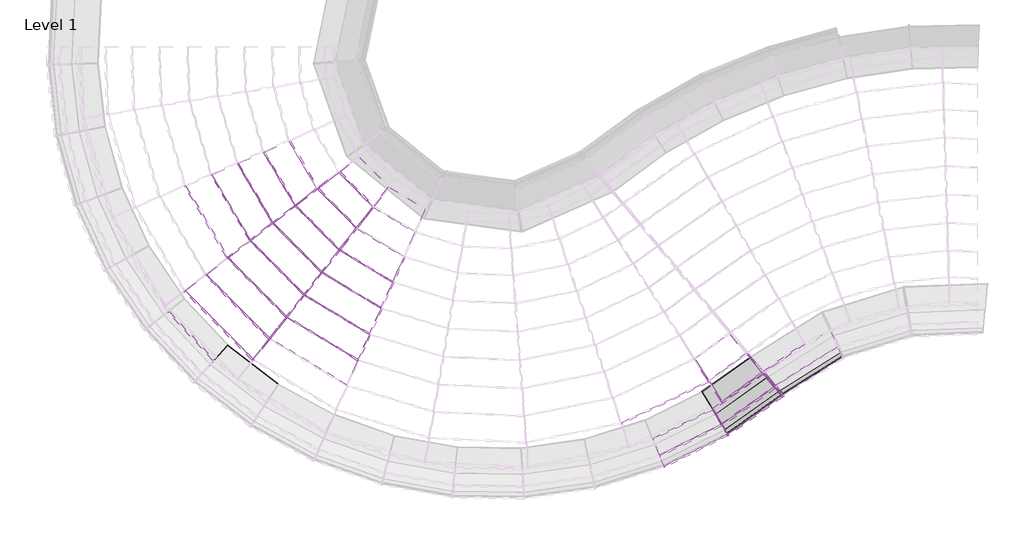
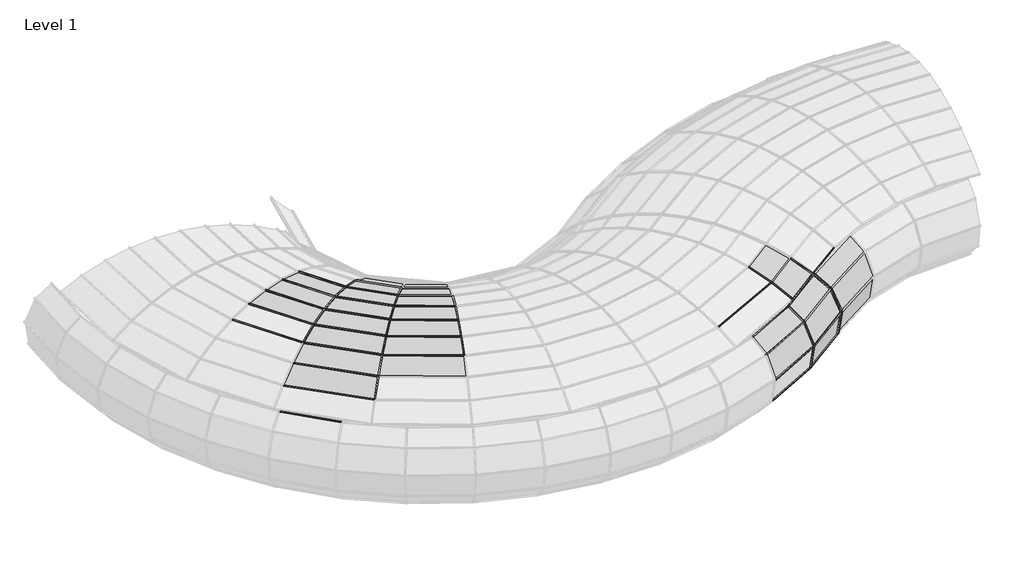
# One storey, part 4 of 23: 67 members, 30 plates.
"""IFC4 building model written with IfcOpenShell, lengths in millimetres."""

from ifc_helpers import new_model, si_unit, origin, place, context, project, spatial, transform, mapped, element, save
from components import member_1b20e6ad, member_6c4aaba8, member_c876edb5, member_782630c7, member_0ea93e7c, member_01d9c279, member_398607d0, member_12c77cbe, member_5ccaa950, member_f3e77526, member_9c203333, member_0c6c8d0c, member_86c07ba8, member_5c79e99c, member_0e8a41c0, member_5e0dc5e0, member_f532ae18, member_f7f5578b, member_ff5bcfe9, member_30a298c8, member_de981218, member_5080b2ef, member_d6b8231b, member_8c9da58c, member_391bee44, member_01ebdf2a, member_0cd36c09, member_e4cc2466, member_0cc87893, member_f8d2dede, member_1517f304, member_58eada01, member_30d53926, member_a8f221fd, member_4c50ae0e, member_afb76c1e, member_c358399a, member_0167d042, system_panel_glazed_acb349bd, system_panel_glazed_abe1d05c, system_panel_glazed_6222ca12, system_panel_glazed_39caee5c, system_panel_glazed_6419fff8, system_panel_glazed_2fe36e08, system_panel_glazed_fbc1d6e8, system_panel_glazed_3b9064ea, system_panel_glazed_5e26bc8e, system_panel_glazed_6d01105a, system_panel_glazed_f7be4813, system_panel_glazed_5b1ce257, system_panel_glazed_7bf4cd1b, system_panel_glazed_9f229a92, system_panel_glazed_a07c5774, system_panel_glazed_4fd85c75, system_panel_glazed_1256fb3b, system_panel_glazed_93969a75, system_panel_glazed_a392d462, system_panel_glazed_c7afbf4a

model = new_model("IFC4")

# Units and contexts
model_context = context("Model", 3, world=origin())
ifc_project = project(units=[si_unit("LENGTHUNIT", "METRE", prefix="MILLI")], contexts=[model_context])

# Site, building, storey
site = spatial("IfcSite", under=ifc_project)
building = spatial("IfcBuilding", under=site)
storey = spatial("IfcBuildingStorey", under=building, Name="Level 1", Elevation=0.0)

# Members
placement = place(None, origin())
member_shape = member_1b20e6ad(model_context)
element("IfcMember", 1, ObjectType="Rectangular Mullion : 1\" Square", at=placement, inside=storey, context=model_context, shape_type="MappedRepresentation", body=[
    mapped(member_shape, transform((-4215.1839746, -8172.5910384, 2085.6089632), x_axis=(0.5019403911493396, -0.7184828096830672, -0.48149589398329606), y_axis=(0.27575183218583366, -0.3947141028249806, 0.8764483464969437), z_axis=(-0.8197662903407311, -0.5726982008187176, 0.0))),
])
member_2_shape = member_6c4aaba8(model_context)
element("IfcMember", 2, ObjectType="Rectangular Mullion : 1\" Square", at=placement, inside=storey, context=model_context, shape_type="MappedRepresentation", body=[
    mapped(member_2_shape, transform((-15084.8340664, -7905.9935602, 2378.3537392), x_axis=(0.6432189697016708, 0.6374360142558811, 0.42419887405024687), y_axis=(-0.30130530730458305, -0.29859637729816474, 0.9055690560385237), z_axis=(0.7039065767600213, -0.7102925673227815, 0.0))),
])
element("IfcMember", 3, ObjectType="Rectangular Mullion : 1\" Square", at=placement, inside=storey, context=model_context, shape_type="MappedRepresentation", body=[
    mapped(member_2_shape, transform((-5404.7053993, -8378.6334389, 2378.3537392), x_axis=(-0.3921062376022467, 0.8162769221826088, 0.4241988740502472), y_axis=(0.18367569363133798, -0.3823714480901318, 0.9055690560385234), z_axis=(0.9013966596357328, 0.4329942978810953, 0.0))),
])
member_3_shape = member_c876edb5(model_context)
element("IfcMember", 4, ObjectType="Rectangular Mullion : 1\" Square", at=placement, inside=storey, context=model_context, shape_type="MappedRepresentation", body=[
    mapped(member_3_shape, transform((-13708.1208201, -4258.3172566, 2676.0506073), x_axis=(0.8291768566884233, 0.4895534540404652, -0.2698205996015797), y_axis=(0.23234658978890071, 0.13717951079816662, 0.962910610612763), z_axis=(0.5084100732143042, -0.8611150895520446, 0.0))),
])
element("IfcMember", 5, ObjectType="Rectangular Mullion : 1\" Square", at=placement, inside=storey, context=model_context, shape_type="MappedRepresentation", body=[
    mapped(member_3_shape, transform((-12878.9206564, -5099.4608771, 2676.0506073), x_axis=(0.6839482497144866, 0.6777991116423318, -0.2698205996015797), y_axis=(0.19165156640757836, 0.18992849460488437, 0.962910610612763), z_axis=(0.7039065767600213, -0.7102925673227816, 0.0))),
])
member_4_shape = member_782630c7(model_context)
element("IfcMember", 6, ObjectType="Rectangular Mullion : 1\" Square", at=placement, inside=storey, context=model_context, shape_type="MappedRepresentation", body=[
    mapped(member_4_shape, transform((-12523.0938407, -4646.7506378, 2475.91846), x_axis=(0.6564501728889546, 0.6505482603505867, -0.38191639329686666), y_axis=(0.2712723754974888, 0.26883346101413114, 0.9241968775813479), z_axis=(0.7039065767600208, -0.7102925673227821, 0.0))),
])
member_5_shape = member_0ea93e7c(model_context)
element("IfcMember", 7, ObjectType="Rectangular Mullion : 1\" Square", at=placement, inside=storey, context=model_context, shape_type="MappedRepresentation", body=[
    mapped(member_5_shape, transform((-15620.3561589, -5733.5771802, 2763.3769688), x_axis=(0.8438153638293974, 0.4981961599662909, 0.19943976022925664), y_axis=(-0.17174058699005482, -0.10139718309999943, 0.97991008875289), z_axis=(0.508410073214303, -0.8611150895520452, 0.0))),
])
element("IfcMember", 8, ObjectType="Rectangular Mullion : 1\" Square", at=placement, inside=storey, context=model_context, shape_type="MappedRepresentation", body=[
    mapped(member_5_shape, transform((-14371.3899343, -6998.2950689, 2763.3769688), x_axis=(0.6960228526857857, 0.6897651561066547, 0.1994397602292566), y_axis=(-0.14166057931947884, -0.14038695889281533, 0.97991008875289), z_axis=(0.7039065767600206, -0.7102925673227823, 0.0))),
])
element("IfcMember", 9, ObjectType="Rectangular Mullion : 1\" Square", at=placement, inside=storey, context=model_context, shape_type="MappedRepresentation", body=[
    mapped(member_5_shape, transform((-12850.6090502, -7918.4328144, 2763.3769688), x_axis=(0.5057963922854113, 0.8392817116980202, 0.1994397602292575), y_axis=(-0.10294404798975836, -0.17081785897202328, 0.9799100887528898), z_axis=(0.8564884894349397, -0.5161661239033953, 0.0))),
])
member_6_shape = member_01d9c279(model_context)
element("IfcMember", 10, ObjectType="Rectangular Mullion : 1\" Square", at=placement, inside=storey, context=model_context, shape_type="MappedRepresentation", body=[
    mapped(member_6_shape, transform((-15142.6167304, -5365.0086162, 2850.17796), x_axis=(0.8582013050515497, 0.5066897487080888, 0.08219500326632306), y_axis=(-0.07077935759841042, -0.04178876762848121, 0.9966162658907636), z_axis=(0.5084100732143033, -0.8611150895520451, 0.0))),
])
element("IfcMember", 11, ObjectType="Rectangular Mullion : 1\" Square", at=placement, inside=storey, context=model_context, shape_type="MappedRepresentation", body=[
    mapped(member_6_shape, transform((-13998.5219063, -6523.9036887, 2850.17796), x_axis=(0.7078891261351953, 0.7015247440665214, 0.08219500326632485), y_axis=(-0.058382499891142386, -0.057857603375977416, 0.9966162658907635), z_axis=(0.7039065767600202, -0.7102925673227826, 0.0))),
])
element("IfcMember", 12, ObjectType="Rectangular Mullion : 1\" Square", at=placement, inside=storey, context=model_context, shape_type="MappedRepresentation", body=[
    mapped(member_6_shape, transform((-12605.3448127, -7367.1405129, 2850.17796), x_axis=(0.514419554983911, 0.8535903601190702, 0.08219500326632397), y_axis=(-0.04242627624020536, -0.07039907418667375, 0.9966162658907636), z_axis=(0.8564884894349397, -0.5161661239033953, 0.0))),
])
member_7_shape = member_398607d0(model_context)
element("IfcMember", 13, ObjectType="Rectangular Mullion : 1\" Square", at=placement, inside=storey, context=model_context, shape_type="MappedRepresentation", body=[
    mapped(member_7_shape, transform((-14660.0929393, -4992.7489906, 2864.5209769), x_axis=(0.8605516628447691, 0.5080774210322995, -0.03616863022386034), y_axis=(0.03114535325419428, 0.018388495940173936, 0.9993457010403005), z_axis=(0.5084100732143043, -0.8611150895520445, 0.0))),
])
element("IfcMember", 14, ObjectType="Rectangular Mullion : 1\" Square", at=placement, inside=storey, context=model_context, shape_type="MappedRepresentation", body=[
    mapped(member_7_shape, transform((-13621.9197593, -6044.7614752, 2864.5209769), x_axis=(0.7098278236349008, 0.7034460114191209, -0.03616863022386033), y_axis=(0.025690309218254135, 0.025459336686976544, 0.9993457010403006), z_axis=(0.7039065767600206, -0.7102925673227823, 0.0))),
])
element("IfcMember", 15, ObjectType="Rectangular Mullion : 1\" Square", at=placement, inside=storey, context=model_context, shape_type="MappedRepresentation", body=[
    mapped(member_7_shape, transform((-12357.6243554, -6810.3272471, 2864.5209769), x_axis=(0.5158283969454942, 0.8559280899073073, -0.03616863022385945), y_axis=(0.01866902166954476, 0.03097801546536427, 0.9993457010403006), z_axis=(0.8564884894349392, -0.5161661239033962, 0.0))),
])
member_8_shape = member_12c77cbe(model_context)
element("IfcMember", 16, ObjectType="Rectangular Mullion : 1\" Square", at=placement, inside=storey, context=model_context, shape_type="MappedRepresentation", body=[
    mapped(member_8_shape, transform((-14735.2193049, -7461.186774, 2605.3528615), x_axis=(0.674376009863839, 0.6683129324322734, 0.31396627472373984), y_axis=(-0.2230079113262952, -0.22100292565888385, 0.9494341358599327), z_axis=(0.7039065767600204, -0.7102925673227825, 0.0))),
])
member_9_shape = member_5ccaa950(model_context)
element("IfcMember", 17, ObjectType="Rectangular Mullion : 1\" Square", at=placement, inside=storey, context=model_context, shape_type="MappedRepresentation", body=[
    mapped(member_9_shape, transform((-14179.6493216, -4622.0941866, 2806.2019711), x_axis=(0.8508370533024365, 0.5023418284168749, -0.15404218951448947), y_axis=(0.1326480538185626, 0.07831660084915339, 0.9880642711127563), z_axis=(0.5084100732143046, -0.8611150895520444, 0.0))),
])
element("IfcMember", 18, ObjectType="Rectangular Mullion : 1\" Square", at=placement, inside=storey, context=model_context, shape_type="MappedRepresentation", body=[
    mapped(member_9_shape, transform((-13246.9411546, -5567.6848571, 2806.2019711), x_axis=(0.7018147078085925, 0.6955049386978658, -0.15404218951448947), y_axis=(0.1094150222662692, 0.10843131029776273, 0.9880642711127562), z_axis=(0.7039065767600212, -0.7102925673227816, 0.0))),
])
element("IfcMember", 19, ObjectType="Rectangular Mullion : 1\" Square", at=placement, inside=storey, context=model_context, shape_type="MappedRepresentation", body=[
    mapped(member_9_shape, transform((-12110.9718279, -6255.9144188, 2806.2019711), x_axis=(0.5100053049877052, 0.846265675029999, -0.15404218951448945), y_axis=(0.07951135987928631, 0.13193536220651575, 0.9880642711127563), z_axis=(0.8564884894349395, -0.5161661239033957, 0.0))),
])
member_10_shape = member_f3e77526(model_context)
element("IfcMember", 20, ObjectType="Rectangular Mullion : 1\" Square", at=placement, inside=storey, context=model_context, shape_type="MappedRepresentation", body=[
    mapped(member_10_shape, transform((-5093.7531788, -8815.3437877, 2085.6089632), x_axis=(0.5180587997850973, -0.7073528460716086, -0.48090230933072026), y_axis=(0.28415032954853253, -0.3879763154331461, 0.8767741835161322), z_axis=(-0.8067674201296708, -0.5908691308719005, 0.0))),
])
member_11_shape = member_9c203333(model_context)
element("IfcMember", 21, ObjectType="Rectangular Mullion : 1\" Square", at=placement, inside=storey, context=model_context, shape_type="MappedRepresentation", body=[
    mapped(member_11_shape, transform((-15597.0346036, -7608.5313392, 0.0), x_axis=(0.5872043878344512, 0.7590506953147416, -0.28112817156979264), y_axis=(-0.17201710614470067, -0.2223581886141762, -0.959670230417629), z_axis=(-0.790949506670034, 0.6118814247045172, 0.0))),
])
member_12_shape = member_0c6c8d0c(model_context)
element("IfcMember", 22, ObjectType="Rectangular Mullion : 1\" Square", at=placement, inside=storey, context=model_context, shape_type="MappedRepresentation", body=[
    mapped(member_12_shape, transform((-5531.5385686, -8580.1625048, 0.0), x_axis=(-0.5559696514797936, 0.7822560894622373, -0.2810216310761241), y_axis=(0.16280010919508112, -0.22906174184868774, -0.9597014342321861), z_axis=(-0.8151035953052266, -0.5793152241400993, 0.0))),
])
member_13_shape = member_86c07ba8(model_context)
element("IfcMember", 23, ObjectType="Rectangular Mullion : 1\" Square", at=placement, inside=storey, context=model_context, shape_type="MappedRepresentation", body=[
    mapped(member_13_shape, transform((-5250.8506518, -9094.1593827, 170.8694653), x_axis=(0.3769682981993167, -0.7551815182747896, 0.5362795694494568), y_axis=(0.2395150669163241, -0.47982112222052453, -0.8440404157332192), z_axis=(0.8947219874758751, 0.4466235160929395, 0.0))),
])
member_14_shape = member_5c79e99c(model_context)
element("IfcMember", 24, ObjectType="Rectangular Mullion : 1\" Square", at=placement, inside=storey, context=model_context, shape_type="MappedRepresentation", body=[
    mapped(member_14_shape, transform((-4158.497515, -8320.1995705, 170.8694653), x_axis=(0.4891002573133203, -0.6881700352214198, 0.535913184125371), y_axis=(0.3104626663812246, -0.4368247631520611, -0.8442730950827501), z_axis=(0.8151035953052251, 0.5793152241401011, 0.0))),
])
member_15_shape = member_0e8a41c0(model_context)
element("IfcMember", 25, ObjectType="Rectangular Mullion : 1\" Square", at=placement, inside=storey, context=model_context, shape_type="MappedRepresentation", body=[
    mapped(member_15_shape, transform((-5043.4831872, -9437.6892209, 629.7792003), x_axis=(0.18859937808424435, -0.37782159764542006, 0.9064662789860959), y_axis=(0.4048491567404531, -0.811035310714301, -0.4222782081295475), z_axis=(0.8947219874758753, 0.4466235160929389, 0.0))),
])
member_16_shape = member_5e0dc5e0(model_context)
element("IfcMember", 26, ObjectType="Rectangular Mullion : 1\" Square", at=placement, inside=storey, context=model_context, shape_type="MappedRepresentation", body=[
    mapped(member_16_shape, transform((-3902.2464957, -8628.9866011, 629.7792003), x_axis=(0.24470601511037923, -0.34430435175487, 0.906406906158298), y_axis=(0.5250953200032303, -0.7388155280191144, -0.42240563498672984), z_axis=(0.8151035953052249, 0.5793152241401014, 0.0))),
])
member_17_shape = member_f532ae18(model_context)
element("IfcMember", 27, ObjectType="Rectangular Mullion : 1\" Square", at=placement, inside=storey, context=model_context, shape_type="MappedRepresentation", body=[
    mapped(member_17_shape, transform((-4996.319743, -9515.8212963, 1232.5089476), x_axis=(-0.059829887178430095, 0.11985736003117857, 0.9909866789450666), y_axis=(0.44259795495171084, -0.8866575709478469, 0.13396044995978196), z_axis=(0.894721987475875, 0.44662351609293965, 0.0))),
])
member_18_shape = member_f7f5578b(model_context)
element("IfcMember", 28, ObjectType="Rectangular Mullion : 1\" Square", at=placement, inside=storey, context=model_context, shape_type="MappedRepresentation", body=[
    mapped(member_18_shape, transform((-3843.9650258, -8699.2168078, 1232.5089476), x_axis=(-0.07762778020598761, 0.10922323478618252, 0.9909814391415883), y_axis=(0.5740906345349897, -0.8077525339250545, 0.13399920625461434), z_axis=(0.8151035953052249, 0.5793152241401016, 0.0))),
])
member_19_shape = member_ff5bcfe9(model_context)
element("IfcMember", 29, ObjectType="Rectangular Mullion : 1\" Square", at=placement, inside=storey, context=model_context, shape_type="MappedRepresentation", body=[
    mapped(member_19_shape, transform((-5124.1822406, -9304.0012636, 1789.6405438), x_axis=(-0.28914364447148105, 0.5792421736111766, 0.7621512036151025), y_axis=(0.34039465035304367, -0.6819134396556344, 0.6473990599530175), z_axis=(0.8947219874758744, 0.44662351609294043, 0.0))),
])
member_20_shape = member_30a298c8(model_context)
element("IfcMember", 30, ObjectType="Rectangular Mullion : 1\" Square", at=placement, inside=storey, context=model_context, shape_type="MappedRepresentation", body=[
    mapped(member_20_shape, transform((-4001.969057, -8508.8191432, 1789.6405438), x_axis=(-0.37516337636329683, 0.5278594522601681, 0.7619821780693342), y_axis=(0.4414278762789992, -0.6210944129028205, 0.6475979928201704), z_axis=(0.8151035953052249, 0.5793152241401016, 0.0))),
])
member_21_shape = member_de981218(model_context)
element("IfcMember", 31, ObjectType="Rectangular Mullion : 1\" Square", at=placement, inside=storey, context=model_context, shape_type="MappedRepresentation", body=[
    mapped(member_21_shape, transform((-4256.7096697, -8201.8521794, 2085.6089632), x_axis=(-0.46477816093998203, 0.6539485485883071, 0.5969359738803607), y_axis=(0.34581409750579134, -0.48656465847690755, 0.8022888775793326), z_axis=(0.8151035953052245, 0.5793152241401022, 0.0))),
])
member_22_shape = member_5080b2ef(model_context)
element("IfcMember", 32, ObjectType="Rectangular Mullion : 1\" Square", at=placement, inside=storey, context=model_context, shape_type="MappedRepresentation", body=[
    mapped(member_22_shape, transform((-15906.1595532, -7910.4658742, 2085.6089632), x_axis=(0.5857596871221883, 0.548054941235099, 0.5970941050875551), y_axis=(-0.4360087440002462, -0.40794331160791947, 0.8021711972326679), z_axis=(0.6832144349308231, -0.7302178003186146, 0.0))),
])
element("IfcMember", 33, ObjectType="Rectangular Mullion : 1\" Square", at=placement, inside=storey, context=model_context, shape_type="MappedRepresentation", body=[
    mapped(member_22_shape, transform((-5330.3274303, -8962.4962748, 2085.6089632), x_axis=(-0.35826852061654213, 0.717720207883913, 0.5970941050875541), y_axis=(0.2666762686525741, -0.5342332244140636, 0.8021711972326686), z_axis=(0.8947219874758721, 0.4466235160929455, 0.0))),
])
member_23_shape = member_d6b8231b(model_context)
element("IfcMember", 34, ObjectType="Rectangular Mullion : 1\" Square", at=placement, inside=storey, context=model_context, shape_type="MappedRepresentation", body=[
    mapped(member_23_shape, transform((-5541.8903842, -8587.5198081, 0.0), x_axis=(0.8561160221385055, 0.5167836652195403, 0.0), y_axis=(0.14485326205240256, -0.2399673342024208, -0.959913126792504), z_axis=(-0.49606742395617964, 0.8217970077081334, -0.280297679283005))),
])
element("IfcMember", 35, ObjectType="Rectangular Mullion : 1\" Square", at=placement, inside=storey, context=model_context, shape_type="MappedRepresentation", body=[
    mapped(member_23_shape, transform((-15607.0796623, -7600.7604451, 0.0), x_axis=(0.7394529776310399, -0.6732082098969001, 0.0), y_axis=(-0.18869869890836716, -0.20726695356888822, -0.959913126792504), z_axis=(0.6462213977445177, 0.7098106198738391, -0.2802976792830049))),
])
member_24_shape = member_8c9da58c(model_context)
element("IfcMember", 36, ObjectType="Rectangular Mullion : 1\" Square", at=placement, inside=storey, context=model_context, shape_type="MappedRepresentation", body=[
    mapped(member_24_shape, transform((-5239.4876826, -9088.487264, 170.8694653), x_axis=(0.8561160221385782, 0.51678366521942, 0.0), y_axis=(0.3890371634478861, -0.6444881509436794, -0.6582439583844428), z_axis=(-0.3401697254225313, 0.5635331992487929, -0.7528046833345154))),
])
element("IfcMember", 37, ObjectType="Rectangular Mullion : 1\" Square", at=placement, inside=storey, context=model_context, shape_type="MappedRepresentation", body=[
    mapped(member_24_shape, transform((-5032.120218, -9432.0171023, 629.7792003), x_axis=(0.8561160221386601, 0.5167836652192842, 0.0), y_axis=(0.5109594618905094, -0.8464675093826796, -0.14971033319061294), z_axis=(-0.07736785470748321, 0.12816941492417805, -0.9887299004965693))),
])
member_25_shape = member_391bee44(model_context)
element("IfcMember", 38, ObjectType="Rectangular Mullion : 1\" Square", at=placement, inside=storey, context=model_context, shape_type="MappedRepresentation", body=[
    mapped(member_25_shape, transform((-4984.9567737, -9510.1491776, 1232.5089476), x_axis=(0.8561160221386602, 0.5167836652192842, 0.0), y_axis=(0.4723039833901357, -0.782429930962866, 0.4058723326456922), z_axis=(0.20974819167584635, -0.3474738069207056, -0.9139297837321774))),
])
member_26_shape = member_01ebdf2a(model_context)
element("IfcMember", 39, ObjectType="Rectangular Mullion : 1\" Square", at=placement, inside=storey, context=model_context, shape_type="MappedRepresentation", body=[
    mapped(member_26_shape, transform((-5112.8192714, -9298.3291449, 1789.6405438), x_axis=(0.8561160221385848, 0.5167836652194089, 0.0), y_axis=(0.3079307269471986, -0.5101253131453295, 0.8030883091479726), z_axis=(0.41502291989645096, -0.6875367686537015, -0.5958600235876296))),
])
member_27_shape = member_0cd36c09(model_context)
element("IfcMember", 40, ObjectType="Rectangular Mullion : 1\" Square", at=placement, inside=storey, context=model_context, shape_type="MappedRepresentation", body=[
    mapped(member_27_shape, transform((-5393.2576617, -8373.1344113, 2378.3537392), x_axis=(0.84104484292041, 0.5409654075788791, 0.0), y_axis=(0.20144139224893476, -0.3131831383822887, 0.9280828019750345), z_axis=(0.5020606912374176, -0.7805592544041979, -0.3723738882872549))),
])
element("IfcMember", 41, ObjectType="Rectangular Mullion : 1\" Square", at=placement, inside=storey, context=model_context, shape_type="MappedRepresentation", body=[
    mapped(member_27_shape, transform((-14173.1925136, -4633.0303482, 2806.2019711), x_axis=(0.6108312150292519, -0.7917608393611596, 0.0), y_axis=(0.16904323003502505, 0.13041423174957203, 0.9769424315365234), z_axis=(-0.7735047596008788, -0.5967469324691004, 0.21350289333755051))),
])
element("IfcMember", 42, ObjectType="Rectangular Mullion : 1\" Square", at=placement, inside=storey, context=model_context, shape_type="MappedRepresentation", body=[
    mapped(member_27_shape, transform((-13701.6640122, -4269.2534182, 2676.0506073), x_axis=(0.6108312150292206, -0.7917608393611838, 0.0), y_axis=(0.25993569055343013, 0.20053635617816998, 0.9445732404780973), z_axis=(-0.7478761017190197, -0.5769748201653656, 0.3283007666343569))),
])
element("IfcMember", 43, ObjectType="Rectangular Mullion : 1\" Square", at=placement, inside=storey, context=model_context, shape_type="MappedRepresentation", body=[
    mapped(member_27_shape, transform((-13238.0015411, -5576.7055727, 2806.2019711), x_axis=(0.7862120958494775, -0.6179567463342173, 0.0), y_axis=(0.13193555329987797, 0.16785855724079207, 0.9769424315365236), z_axis=(-0.6037081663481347, -0.7680839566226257, 0.21350289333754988))),
])
element("IfcMember", 44, ObjectType="Rectangular Mullion : 1\" Square", at=placement, inside=storey, context=model_context, shape_type="MappedRepresentation", body=[
    mapped(member_27_shape, transform((-12869.9810429, -5108.4815927, 2676.0506073), x_axis=(0.7862120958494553, -0.6179567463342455, 0.0), y_axis=(0.2028756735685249, 0.25811403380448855, 0.944573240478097), z_axis=(-0.5837054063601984, -0.7426349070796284, 0.3283007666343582))),
])
element("IfcMember", 45, ObjectType="Rectangular Mullion : 1\" Square", at=placement, inside=storey, context=model_context, shape_type="MappedRepresentation", body=[
    mapped(member_27_shape, transform((-12100.0944241, -6262.4697286, 2806.2019711), x_axis=(0.9136605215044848, -0.4064781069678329, 0.0), y_axis=(0.08678425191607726, 0.19506916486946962, 0.9769424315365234), z_axis=(-0.39710571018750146, -0.8925937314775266, 0.21350289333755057))),
])
element("IfcMember", 46, ObjectType="Rectangular Mullion : 1\" Square", at=placement, inside=storey, context=model_context, shape_type="MappedRepresentation", body=[
    mapped(member_27_shape, transform((-15613.899351, -5744.5133419, 2763.3769688), x_axis=(0.6108312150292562, -0.7917608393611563, 0.0), y_axis=(-0.11273888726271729, -0.08697630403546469, 0.9898106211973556), z_axis=(-0.7836932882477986, -0.6046072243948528, -0.1423900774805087))),
])
element("IfcMember", 47, ObjectType="Rectangular Mullion : 1\" Square", at=placement, inside=storey, context=model_context, shape_type="MappedRepresentation", body=[
    mapped(member_27_shape, transform((-15075.8944528, -7915.0142758, 2378.3537392), x_axis=(0.7862120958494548, -0.6179567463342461, 0.0), y_axis=(-0.23011095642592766, -0.2927648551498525, 0.9280828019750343), z_axis=(-0.5735150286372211, -0.7296699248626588, -0.37237388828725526))),
])
element("IfcMember", 48, ObjectType="Rectangular Mullion : 1\" Square", at=placement, inside=storey, context=model_context, shape_type="MappedRepresentation", body=[
    mapped(member_27_shape, transform((-14726.2796914, -7470.2074896, 2605.3528615), x_axis=(0.7862120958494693, -0.6179567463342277, 0.0), y_axis=(-0.16019039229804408, -0.2038065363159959, 0.965816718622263), z_axis=(-0.5968329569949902, -0.7593367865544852, -0.25922589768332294))),
])
element("IfcMember", 49, ObjectType="Rectangular Mullion : 1\" Square", at=placement, inside=storey, context=model_context, shape_type="MappedRepresentation", body=[
    mapped(member_27_shape, transform((-14362.4503208, -7007.3157845, 2763.3769688), x_axis=(0.7862120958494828, -0.6179567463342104, 0.0), y_axis=(-0.08799090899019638, -0.11194880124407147, 0.9898106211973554), z_axis=(-0.6116601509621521, -0.7782010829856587, -0.14239007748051))),
])
element("IfcMember", 50, ObjectType="Rectangular Mullion : 1\" Square", at=placement, inside=storey, context=model_context, shape_type="MappedRepresentation", body=[
    mapped(member_27_shape, transform((-12839.7316464, -7924.9881242, 2763.3769688), x_axis=(0.9136605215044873, -0.4064781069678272, 0.0), y_axis=(-0.057878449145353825, -0.130096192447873, 0.9898106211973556), z_axis=(-0.4023363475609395, -0.9043508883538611, -0.14239007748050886))),
])
element("IfcMember", 51, ObjectType="Rectangular Mullion : 1\" Square", at=placement, inside=storey, context=model_context, shape_type="MappedRepresentation", body=[
    mapped(member_27_shape, transform((-15136.1599225, -5375.9447779, 2850.17796), x_axis=(0.610831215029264, -0.7917608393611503, 0.0), y_axis=(-0.01862900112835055, -0.014371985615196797, 0.9997231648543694), z_axis=(-0.7915416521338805, -0.6106621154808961, -0.023528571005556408))),
])
element("IfcMember", 52, ObjectType="Rectangular Mullion : 1\" Square", at=placement, inside=storey, context=model_context, shape_type="MappedRepresentation", body=[
    mapped(member_27_shape, transform((-13989.5822928, -6532.9244043, 2850.17796), x_axis=(0.7862120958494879, -0.6179567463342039, 0.0), y_axis=(-0.014539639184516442, -0.018498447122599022, 0.9997231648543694), z_axis=(-0.6177856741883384, -0.7859944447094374, -0.023528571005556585))),
])
element("IfcMember", 53, ObjectType="Rectangular Mullion : 1\" Square", at=placement, inside=storey, context=model_context, shape_type="MappedRepresentation", body=[
    mapped(member_27_shape, transform((-12594.4674089, -7373.6958226, 2850.17796), x_axis=(0.913660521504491, -0.40647810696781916, 0.0), y_axis=(-0.009563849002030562, -0.021497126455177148, 0.9997231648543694), z_axis=(-0.40636557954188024, -0.9134075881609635, -0.023528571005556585))),
])
element("IfcMember", 54, ObjectType="Rectangular Mullion : 1\" Square", at=placement, inside=storey, context=model_context, shape_type="MappedRepresentation", body=[
    mapped(member_27_shape, transform((-14653.6361314, -5003.6851523, 2864.5209769), x_axis=(0.6108312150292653, -0.7917608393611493, 0.0), y_axis=(0.07574590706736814, 0.05843679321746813, 0.9954133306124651), z_axis=(-0.7881292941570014, -0.608029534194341, 0.09566766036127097))),
])
element("IfcMember", 55, ObjectType="Rectangular Mullion : 1\" Square", at=placement, inside=storey, context=model_context, shape_type="MappedRepresentation", body=[
    mapped(member_27_shape, transform((-13612.9801458, -6053.7821909, 2864.5209769), x_axis=(0.7862120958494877, -0.6179567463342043, 0.0), y_axis=(0.05911847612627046, 0.07521507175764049, 0.9954133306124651), z_axis=(-0.6151223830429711, -0.7826060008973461, 0.09566766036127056))),
])
element("IfcMember", 56, ObjectType="Rectangular Mullion : 1\" Square", at=placement, inside=storey, context=model_context, shape_type="MappedRepresentation", body=[
    mapped(member_27_shape, transform((-12346.7469516, -6816.8825569, 2864.5209769), x_axis=(0.9136605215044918, -0.40647810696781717, 0.0), y_axis=(0.038886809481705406, 0.08740776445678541, 0.9954133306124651), z_axis=(-0.40461372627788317, -0.9094698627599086, 0.09566766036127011))),
])
member_28_shape = member_e4cc2466(model_context)
element("IfcMember", 57, ObjectType="Rectangular Mullion : 1\" Square", at=placement, inside=storey, context=model_context, shape_type="MappedRepresentation", body=[
    mapped(member_28_shape, transform((-5103.9991251, -8822.8478257, 2085.6089632), x_axis=(0.8410448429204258, 0.5409654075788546, 0.0), y_axis=(0.2597847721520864, -0.4038902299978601, 0.8771456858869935), z_axis=(0.47450547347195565, -0.7377188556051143, -0.48022437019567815))),
])
member_29_shape = member_0cc87893(model_context)
element("IfcMember", 58, ObjectType="Rectangular Mullion : 1\" Square", at=placement, inside=storey, context=model_context, shape_type="MappedRepresentation", body=[
    mapped(member_29_shape, transform((-4236.0060384, -8187.1375727, 2085.6089632), x_axis=(-0.7968732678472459, -0.6008891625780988, -0.06265149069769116), y_axis=(0.3193270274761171, -0.5069562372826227, 0.8006407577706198), z_axis=(-0.5128579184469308, 0.6180029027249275, 0.5958600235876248))),
])
member_30_shape = member_f8d2dede(model_context)
element("IfcMember", 59, ObjectType="Rectangular Mullion : 1\" Square", at=placement, inside=storey, context=model_context, shape_type="MappedRepresentation", body=[
    mapped(member_30_shape, transform((-4137.7938837, -8305.4849639, 170.8694653), x_axis=(-0.7755966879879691, -0.6302403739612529, 0.035310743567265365), y_axis=(0.15057140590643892, -0.23904369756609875, -0.9592634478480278), z_axis=(0.6130073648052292, -0.7386847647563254, 0.2802976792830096))),
])
member_31_shape = member_1517f304(model_context)
element("IfcMember", 60, ObjectType="Rectangular Mullion : 1\" Square", at=placement, inside=storey, context=model_context, shape_type="MappedRepresentation", body=[
    mapped(member_31_shape, transform((-3881.5428644, -8614.2719944, 629.7792003), x_axis=(-0.8130968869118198, -0.5785149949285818, 0.06475996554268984), y_axis=(0.4027052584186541, -0.6393255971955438, -0.6550505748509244), z_axis=(0.4203592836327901, -0.5065404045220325, 0.7528046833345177))),
])
member_32_shape = member_58eada01(model_context)
element("IfcMember", 61, ObjectType="Rectangular Mullion : 1\" Square", at=placement, inside=storey, context=model_context, shape_type="MappedRepresentation", body=[
    mapped(member_32_shape, transform((-3823.2613945, -8684.5022011, 1232.5089476), x_axis=(-0.8444299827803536, -0.5353189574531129, 0.019277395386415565), y_axis=(0.5270649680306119, -0.8367562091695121, -0.14846402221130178), z_axis=(0.09560608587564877, -0.115207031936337, 0.9887299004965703))),
])
member_33_shape = member_30d53926(model_context)
element("IfcMember", 62, ObjectType="Rectangular Mullion : 1\" Square", at=placement, inside=storey, context=model_context, shape_type="MappedRepresentation", body=[
    mapped(member_33_shape, transform((-3981.2654257, -8494.1045365, 1789.6405438), x_axis=(-0.8336003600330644, -0.5502464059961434, -0.048366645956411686), y_axis=(0.4877801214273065, -0.7743884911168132, 0.4029801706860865), z_axis=(-0.2591929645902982, 0.3123321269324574, 0.9139297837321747))),
])
member_34_shape = member_a8f221fd(model_context)
element("IfcMember", 63, ObjectType="Rectangular Mullion : 1\" Square", at=placement, inside=storey, context=model_context, shape_type="MappedRepresentation", body=[
    mapped(member_34_shape, transform((-4236.0060384, -8187.1375727, 2085.6089632), x_axis=(0.7781316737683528, 0.6275822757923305, 0.02552617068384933), y_axis=(0.2841503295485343, -0.38797631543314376, 0.8767741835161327), z_axis=(0.5601514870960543, -0.6749924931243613, -0.48022437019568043))),
])
member_35_shape = member_4c50ae0e(model_context)
element("IfcMember", 64, ObjectType="Rectangular Mullion : 1\" Square", at=placement, inside=storey, context=model_context, shape_type="MappedRepresentation", body=[
    mapped(member_35_shape, transform((-4137.7938837, -8305.4849639, 170.8694653), x_axis=(0.7953890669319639, 0.6049641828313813, -0.0370751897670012), y_axis=(0.43663978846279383, -0.6143575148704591, -0.6571990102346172), z_axis=(-0.42035928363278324, 0.506540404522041, -0.7528046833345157))),
])
member_36_shape = member_afb76c1e(model_context)
element("IfcMember", 65, ObjectType="Rectangular Mullion : 1\" Square", at=placement, inside=storey, context=model_context, shape_type="MappedRepresentation", body=[
    mapped(member_36_shape, transform((-3881.5428644, -8614.2719944, 629.7792003), x_axis=(0.8140849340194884, 0.5806404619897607, -0.0110622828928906), y_axis=(0.572822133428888, -0.8059677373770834, -0.14930107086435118), z_axis=(-0.09560608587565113, 0.11520703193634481, -0.9887299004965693))),
])
member_37_shape = member_c358399a(model_context)
element("IfcMember", 66, ObjectType="Rectangular Mullion : 1\" Square", at=placement, inside=storey, context=model_context, shape_type="MappedRepresentation", body=[
    mapped(member_37_shape, transform((-3823.2613945, -8684.5022011, 1232.5089476), x_axis=(0.8076137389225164, 0.5890593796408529, 0.02773257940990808), y_axis=(0.5296971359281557, -0.7452903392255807, 0.40492376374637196), z_axis=(0.25919296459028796, -0.31233212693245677, -0.9139297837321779))),
])
member_38_shape = member_0167d042(model_context)
element("IfcMember", 67, ObjectType="Rectangular Mullion : 1\" Square", at=placement, inside=storey, context=model_context, shape_type="MappedRepresentation", body=[
    mapped(member_38_shape, transform((-3981.2654257, -8494.1045365, 1789.6405438), x_axis=(0.7857412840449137, 0.6175170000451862, 0.03582442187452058), y_axis=(0.3458140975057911, -0.48656465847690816, 0.8022888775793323), z_axis=(0.5128579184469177, -0.6180029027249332, -0.5958600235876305))),
])

# Plates
system_panel_glazed_shape = system_panel_glazed_acb349bd(model_context)
element("IfcPlate", 68, ObjectType="System Panel : Glazed", at=placement, inside=storey, context=model_context, shape_type="MappedRepresentation", body=[
    mapped(system_panel_glazed_shape, transform((-5017.7544258, -8244.9087272, 7.1379494), x_axis=(0.8151035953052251, 0.5793152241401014, 0.0), y_axis=(-0.16280010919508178, 0.22906174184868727, 0.9597014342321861), z_axis=(0.5559696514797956, -0.7822560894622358, 0.28102163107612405))),
])
system_panel_glazed_2_shape = system_panel_glazed_abe1d05c(model_context)
element("IfcPlate", 69, ObjectType="System Panel : Glazed", at=placement, inside=storey, context=model_context, shape_type="MappedRepresentation", body=[
    mapped(system_panel_glazed_2_shape, transform((-4688.9877518, -8707.4724272, 180.4416724), x_axis=(0.8151035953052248, 0.5793152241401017, 0.0), y_axis=(-0.4366397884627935, 0.6143575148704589, 0.6571990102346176), z_axis=(0.3807253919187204, -0.5356852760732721, 0.753717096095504))),
])
system_panel_glazed_3_shape = system_panel_glazed_6222ca12(model_context)
element("IfcPlate", 70, ObjectType="System Panel : Glazed", at=placement, inside=storey, context=model_context, shape_type="MappedRepresentation", body=[
    mapped(system_panel_glazed_3_shape, transform((-4460.9093197, -9028.3689674, 642.3368559), x_axis=(0.8151035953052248, 0.5793152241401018, 0.0), y_axis=(-0.5728221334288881, 0.8059677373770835, 0.14930107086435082), z_axis=(0.08649238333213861, -0.12169583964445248, 0.9887917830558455))),
])
system_panel_glazed_4_shape = system_panel_glazed_39caee5c(model_context)
element("IfcPlate", 71, ObjectType="System Panel : Glazed", at=placement, inside=storey, context=model_context, shape_type="MappedRepresentation", body=[
    mapped(system_panel_glazed_4_shape, transform((-5669.9484141, -9846.3347376, 1244.1219817), x_axis=(0.8947219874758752, 0.44662351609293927, 0.0), y_axis=(-0.40839796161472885, 0.8181446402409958, -0.4047844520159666), z_axis=(-0.1807862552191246, 0.36216954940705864, 0.9144121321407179))),
])
system_panel_glazed_5_shape = system_panel_glazed_6419fff8(model_context)
element("IfcPlate", 72, ObjectType="System Panel : Glazed", at=placement, inside=storey, context=model_context, shape_type="MappedRepresentation", body=[
    mapped(system_panel_glazed_5_shape, transform((-4412.2665213, -9096.8143381, 1244.1211983), x_axis=(0.8151035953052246, 0.5793152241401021, 0.0), y_axis=(-0.5296971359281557, 0.7452903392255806, -0.4049237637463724), z_axis=(-0.23457850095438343, 0.3300548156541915, 0.9143504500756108))),
])
system_panel_glazed_6_shape = system_panel_glazed_2fe36e08(model_context)
element("IfcPlate", 73, ObjectType="System Panel : Glazed", at=placement, inside=storey, context=model_context, shape_type="MappedRepresentation", body=[
    mapped(system_panel_glazed_6_shape, transform((-5782.3516062, -9621.1571467, 1797.2236389), x_axis=(0.894721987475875, 0.4466235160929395, 0.0), y_axis=(-0.2666762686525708, 0.5342332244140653, -0.8021711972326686), z_axis=(-0.35826852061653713, 0.7177202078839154, 0.5970941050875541))),
])
system_panel_glazed_7_shape = system_panel_glazed_fbc1d6e8(model_context)
element("IfcPlate", 74, ObjectType="System Panel : Glazed", at=placement, inside=storey, context=model_context, shape_type="MappedRepresentation", body=[
    mapped(system_panel_glazed_7_shape, transform((-4558.1302852, -8891.5969884, 1797.2216306), x_axis=(0.8151035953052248, 0.5793152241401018, 0.0), y_axis=(-0.3458140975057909, 0.48656465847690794, -0.8022888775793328), z_axis=(-0.4647781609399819, 0.6539485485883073, 0.5969359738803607))),
])
system_panel_glazed_8_shape = system_panel_glazed_3b9064ea(model_context)
element("IfcPlate", 75, ObjectType="System Panel : Glazed", at=placement, inside=storey, context=model_context, shape_type="MappedRepresentation", body=[
    mapped(system_panel_glazed_8_shape, transform((-4688.2914805, -8490.7832527, 2097.8238818), x_axis=(0.8067674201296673, 0.5908691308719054, 0.0), y_axis=(-0.28415032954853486, 0.3879763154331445, -0.8767741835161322), z_axis=(-0.5180587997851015, 0.7073528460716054, 0.48090230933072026))),
])
system_panel_glazed_9_shape = system_panel_glazed_5e26bc8e(model_context)
element("IfcPlate", 76, ObjectType="System Panel : Glazed", at=placement, inside=storey, context=model_context, shape_type="MappedRepresentation", body=[
    mapped(system_panel_glazed_9_shape, transform((-15793.5862167, -7174.0847737, 2383.1142391), x_axis=(0.7039065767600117, -0.7102925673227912, 0.0), y_axis=(0.26624784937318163, 0.26385410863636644, -0.9270885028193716), z_axis=(0.6585040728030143, 0.6525836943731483, 0.37484251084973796))),
])
system_panel_glazed_10_shape = system_panel_glazed_6d01105a(model_context)
element("IfcPlate", 77, ObjectType="System Panel : Glazed", at=placement, inside=storey, context=model_context, shape_type="MappedRepresentation", body=[
    mapped(system_panel_glazed_10_shape, transform((-4997.4596896, -8068.6495661, 2383.0903636), x_axis=(0.8067674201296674, 0.5908691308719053, 0.0), y_axis=(-0.2203720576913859, 0.30089403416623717, -0.927846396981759), z_axis=(-0.5482357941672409, 0.7485562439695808, 0.3729625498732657))),
])
system_panel_glazed_11_shape = system_panel_glazed_f7be4813(model_context)
element("IfcPlate", 78, ObjectType="System Panel : Glazed", at=placement, inside=storey, context=model_context, shape_type="MappedRepresentation", body=[
    mapped(system_panel_glazed_11_shape, transform((-15394.4609872, -6778.5479387, 2608.668686), x_axis=(0.7039065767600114, -0.7102925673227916, 0.0), y_axis=(0.18544924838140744, 0.18378193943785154, -0.9653148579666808), z_axis=(0.6856559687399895, 0.6794914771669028, 0.2610885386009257))),
])
element("IfcPlate", 79, ObjectType="System Panel : Glazed", at=placement, inside=storey, context=model_context, shape_type="MappedRepresentation", body=[
    mapped(system_panel_glazed_11_shape, transform((-13896.3371365, -7956.0619267, 2608.668686), x_axis=(0.8564884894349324, -0.5161661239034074, 0.0), y_axis=(0.13476505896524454, 0.2236193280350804, -0.9653148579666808), z_axis=(0.49826282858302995, 0.8267810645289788, 0.26108853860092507))),
])
system_panel_glazed_12_shape = system_panel_glazed_5b1ce257(model_context)
element("IfcPlate", 80, ObjectType="System Panel : Glazed", at=placement, inside=storey, context=model_context, shape_type="MappedRepresentation", body=[
    mapped(system_panel_glazed_12_shape, transform((-14979.2474364, -6367.0674268, 2765.1989775), x_axis=(0.7039065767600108, -0.7102925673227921, 0.0), y_axis=(0.10190230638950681, 0.10098613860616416, -0.9896553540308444), z_axis=(0.7029448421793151, 0.6966249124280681, 0.1434652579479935))),
])
element("IfcPlate", 81, ObjectType="System Panel : Glazed", at=placement, inside=storey, context=model_context, shape_type="MappedRepresentation", body=[
    mapped(system_panel_glazed_12_shape, transform((-13594.6034862, -7455.3870734, 2765.1989775), x_axis=(0.8564884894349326, -0.516166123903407, 0.0), y_axis=(0.07405190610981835, 0.12287634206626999, -0.9896553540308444), z_axis=(0.510826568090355, 0.8476284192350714, 0.1434652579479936))),
])
system_panel_glazed_13_shape = system_panel_glazed_7bf4cd1b(model_context)
element("IfcPlate", 82, ObjectType="System Panel : Glazed", at=placement, inside=storey, context=model_context, shape_type="MappedRepresentation", body=[
    mapped(system_panel_glazed_13_shape, transform((-15539.2957159, -4668.1642606, 2850.4790751), x_axis=(0.5084100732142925, -0.8611150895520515, 0.0), y_axis=(0.020416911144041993, 0.01205432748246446, -0.9997188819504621), z_axis=(0.860873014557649, 0.5082671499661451, 0.023709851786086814))),
])
element("IfcPlate", 83, ObjectType="System Panel : Glazed", at=placement, inside=storey, context=model_context, shape_type="MappedRepresentation", body=[
    mapped(system_panel_glazed_13_shape, transform((-14553.8529279, -5945.4974907, 2850.4790751), x_axis=(0.7039065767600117, -0.7102925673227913, 0.0), y_axis=(0.01684093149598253, 0.016689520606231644, -0.9997188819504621), z_axis=(0.7100928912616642, 0.7037086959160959, 0.023709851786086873))),
])
element("IfcPlate", 84, ObjectType="System Panel : Glazed", at=placement, inside=storey, context=model_context, shape_type="MappedRepresentation", body=[
    mapped(system_panel_glazed_13_shape, transform((-13285.4713839, -6942.4357675, 2850.4790751), x_axis=(0.8564884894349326, -0.5161661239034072, 0.0), y_axis=(0.012238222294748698, 0.02030721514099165, -0.9997188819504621), z_axis=(0.5160210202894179, 0.8562477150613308, 0.023709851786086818))),
])
system_panel_glazed_14_shape = system_panel_glazed_9f229a92(model_context)
element("IfcPlate", 85, ObjectType="System Panel : Glazed", at=placement, inside=storey, context=model_context, shape_type="MappedRepresentation", body=[
    mapped(system_panel_glazed_14_shape, transform((-15018.5678088, -4360.7218332, 2863.296718), x_axis=(0.5084100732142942, -0.8611150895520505, 0.0), y_axis=(-0.08301006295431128, -0.049009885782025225, -0.9953428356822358), z_axis=(0.8571047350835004, 0.5060423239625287, -0.09639833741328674))),
])
element("IfcPlate", 86, ObjectType="System Panel : Glazed", at=placement, inside=storey, context=model_context, shape_type="MappedRepresentation", body=[
    mapped(system_panel_glazed_14_shape, transform((-14124.3294339, -5519.8356913, 2863.296718), x_axis=(0.7039065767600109, -0.7102925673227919, 0.0), y_axis=(-0.06847102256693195, -0.06785542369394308, -0.9953428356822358), z_axis=(0.7069846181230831, 0.7006283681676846, -0.09639833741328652))),
])
element("IfcPlate", 87, ObjectType="System Panel : Glazed", at=placement, inside=storey, context=model_context, shape_type="MappedRepresentation", body=[
    mapped(system_panel_glazed_14_shape, transform((-12973.3387681, -6424.5056279, 2863.296718), x_axis=(0.8564884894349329, -0.5161661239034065, 0.0), y_axis=(-0.049757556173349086, -0.08256406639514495, -0.9953428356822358), z_axis=(0.513762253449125, 0.8524996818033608, -0.09639833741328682))),
])
system_panel_glazed_15_shape = system_panel_glazed_a07c5774(model_context)
element("IfcPlate", 88, ObjectType="System Panel : Glazed", at=placement, inside=storey, context=model_context, shape_type="MappedRepresentation", body=[
    mapped(system_panel_glazed_15_shape, transform((-14500.24212, -4054.6976971, 2803.4705448), x_axis=(0.5084100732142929, -0.8611150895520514, 0.0), y_axis=(-0.1852025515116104, -0.10934524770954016, -0.9765979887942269), z_axis=(0.8409632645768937, 0.4965122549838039, -0.21507293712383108))),
])
element("IfcPlate", 89, ObjectType="System Panel : Glazed", at=placement, inside=storey, context=model_context, shape_type="MappedRepresentation", body=[
    mapped(system_panel_glazed_15_shape, transform((-13696.7874146, -5096.1375519, 2803.4705448), x_axis=(0.7039065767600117, -0.7102925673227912, 0.0), y_axis=(-0.1527647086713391, -0.1513912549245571, -0.9765979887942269), z_axis=(0.6936702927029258, 0.6874337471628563, -0.2150729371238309))),
])
element("IfcPlate", 90, ObjectType="System Panel : Glazed", at=placement, inside=storey, context=model_context, shape_type="MappedRepresentation", body=[
    mapped(system_panel_glazed_15_shape, transform((-12662.6460802, -5908.9647999, 2803.4705448), x_axis=(0.8564884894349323, -0.5161661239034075, 0.0), y_axis=(-0.1110133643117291, -0.18420749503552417, -0.9765979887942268), z_axis=(0.5040867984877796, 0.8364449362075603, -0.215072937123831))),
])
system_panel_glazed_16_shape = system_panel_glazed_4fd85c75(model_context)
element("IfcPlate", 91, ObjectType="System Panel : Glazed", at=placement, inside=storey, context=model_context, shape_type="MappedRepresentation", body=[
    mapped(system_panel_glazed_16_shape, transform((-13277.3088992, -4680.4304201, 2671.8525455), x_axis=(0.7039065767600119, -0.710292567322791, 0.0), y_axis=(-0.23479150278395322, -0.23268057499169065, -0.943786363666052), z_axis=(0.6703644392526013, 0.6643374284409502, -0.3305560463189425))),
])
element("IfcPlate", 92, ObjectType="System Panel : Glazed", at=placement, inside=storey, context=model_context, shape_type="MappedRepresentation", body=[
    mapped(system_panel_glazed_16_shape, transform((-12357.813101, -5403.1471459, 2671.8525455), x_axis=(0.8564884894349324, -0.5161661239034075, 0.0), y_axis=(-0.17062183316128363, -0.28311744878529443, -0.943786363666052), z_axis=(0.4871505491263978, 0.8083421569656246, -0.3305560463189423))),
])
system_panel_glazed_17_shape = system_panel_glazed_1256fb3b(model_context)
element("IfcPlate", 93, ObjectType="System Panel : Glazed", at=placement, inside=storey, context=model_context, shape_type="MappedRepresentation", body=[
    mapped(system_panel_glazed_17_shape, transform((-12871.8610025, -4278.6277628, 2470.3158265), x_axis=(0.7039065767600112, -0.7102925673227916, 0.0), y_axis=(-0.3133471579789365, -0.31052996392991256, -0.8974322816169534), z_axis=(0.6374394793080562, 0.6317084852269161, -0.44115224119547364))),
])
element("IfcPlate", 94, ObjectType="System Panel : Glazed", at=placement, inside=storey, context=model_context, shape_type="MappedRepresentation", body=[
    mapped(system_panel_glazed_17_shape, transform((-12063.1761037, -4914.2479619, 2470.3158265), x_axis=(0.8564884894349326, -0.5161661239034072, 0.0), y_axis=(-0.2277078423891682, -0.3778418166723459, -0.8974322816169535), z_axis=(0.463224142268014, 0.7686404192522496, -0.4411522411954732))),
])
system_panel_glazed_18_shape = system_panel_glazed_93969a75(model_context)
element("IfcPlate", 95, ObjectType="System Panel : Glazed", at=placement, inside=storey, context=model_context, shape_type="MappedRepresentation", body=[
    mapped(system_panel_glazed_18_shape, transform((-3221.7676452, -8200.9140733, 642.3384564), x_axis=(0.8461332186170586, 0.5329714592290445, 0.0), y_axis=(-0.527064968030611, 0.8367562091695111, 0.14846402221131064), z_axis=(0.07912708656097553, -0.12562034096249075, 0.9889178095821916))),
])
system_panel_glazed_19_shape = system_panel_glazed_a392d462(model_context)
element("IfcPlate", 96, ObjectType="System Panel : Glazed", at=placement, inside=storey, context=model_context, shape_type="MappedRepresentation", body=[
    mapped(system_panel_glazed_19_shape, transform((-3177.2670222, -8271.5478297, 1244.1320982), x_axis=(0.8461332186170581, 0.5329714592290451, 0.0), y_axis=(-0.4877801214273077, 0.7743884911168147, -0.40298017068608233), z_axis=(-0.21477692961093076, 0.3409749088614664, 0.9152087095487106))),
])
system_panel_glazed_20_shape = system_panel_glazed_c7afbf4a(model_context)
element("IfcPlate", 97, ObjectType="System Panel : Glazed", at=placement, inside=storey, context=model_context, shape_type="MappedRepresentation", body=[
    mapped(system_panel_glazed_20_shape, transform((-3310.6816383, -8059.6928514, 1797.2496815), x_axis=(0.8461332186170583, 0.5329714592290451, 0.0), y_axis=(-0.31932702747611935, 0.5069562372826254, -0.800640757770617), z_axis=(-0.42671867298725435, 0.6774487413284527, 0.5991447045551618))),
])

save(model, "model.ifc")
